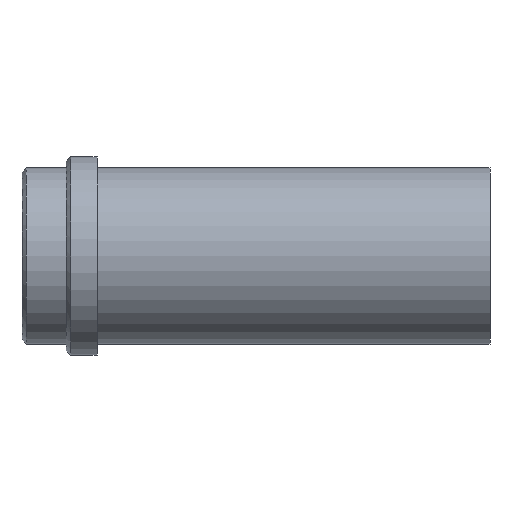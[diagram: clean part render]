
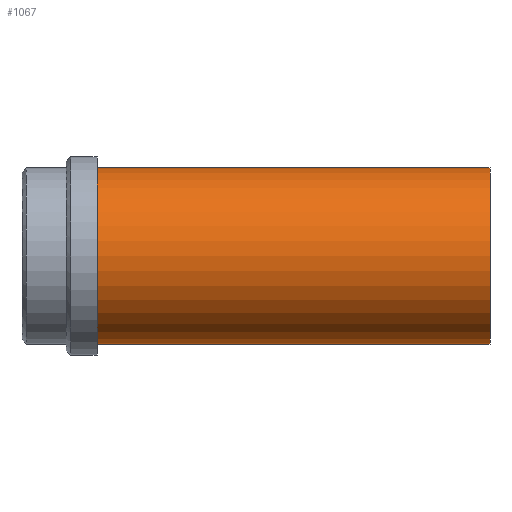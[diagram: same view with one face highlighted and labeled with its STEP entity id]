
A CAD part, front view. The second image highlights one B-rep face of the part: STEP entity #1067.
In plain terms, the highlighted cylindrical face has radius 20 mm (diameter 40 mm), a partial arc.
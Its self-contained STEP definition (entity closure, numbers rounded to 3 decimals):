
#953=CARTESIAN_POINT('Vertex',(0.,0.,-20.)) ;
#958=CARTESIAN_POINT('Axis2P3D Location',(0.,0.,0.)) ;
#962=CARTESIAN_POINT('Vertex',(0.,-20.,0.)) ;
#965=CARTESIAN_POINT('Axis2P3D Location',(0.,0.,0.)) ;
#969=CARTESIAN_POINT('Vertex',(0.,0.,20.)) ;
#995=CARTESIAN_POINT('Vertex',(89.,0.,20.)) ;
#998=CARTESIAN_POINT('Axis2P3D Location',(89.,0.,0.)) ;
#1002=CARTESIAN_POINT('Vertex',(89.,-20.,0.)) ;
#1005=CARTESIAN_POINT('Axis2P3D Location',(89.,0.,0.)) ;
#1009=CARTESIAN_POINT('Vertex',(89.,0.,-20.)) ;
#1035=CARTESIAN_POINT('Line Origine',(89.,0.,20.)) ;
#1040=CARTESIAN_POINT('Line Origine',(89.,0.,-20.)) ;
#1054=CARTESIAN_POINT('Axis2P3D Location',(89.,0.,0.)) ;
#959=DIRECTION('Axis2P3D Direction',(1.,0.,-0.)) ;
#966=DIRECTION('Axis2P3D Direction',(1.,0.,-0.)) ;
#999=DIRECTION('Axis2P3D Direction',(1.,0.,-0.)) ;
#1006=DIRECTION('Axis2P3D Direction',(1.,0.,-0.)) ;
#1036=DIRECTION('Vector Direction',(-1.,0.,0.)) ;
#1041=DIRECTION('Vector Direction',(-1.,0.,0.)) ;
#1055=DIRECTION('Axis2P3D Direction',(-1.,-0.,-0.)) ;
#1056=DIRECTION('Axis2P3D XDirection',(0.,0.,-1.)) ;
#960=AXIS2_PLACEMENT_3D('Circle Axis2P3D',#958,#959,$) ;
#967=AXIS2_PLACEMENT_3D('Circle Axis2P3D',#965,#966,$) ;
#1000=AXIS2_PLACEMENT_3D('Circle Axis2P3D',#998,#999,$) ;
#1007=AXIS2_PLACEMENT_3D('Circle Axis2P3D',#1005,#1006,$) ;
#1057=AXIS2_PLACEMENT_3D('Cylinder Axis2P3D',#1054,#1055,#1056) ;
#1060=ORIENTED_EDGE('',*,*,#1044,.T.) ;
#1061=ORIENTED_EDGE('',*,*,#1011,.F.) ;
#1062=ORIENTED_EDGE('',*,*,#1004,.F.) ;
#1063=ORIENTED_EDGE('',*,*,#1039,.T.) ;
#1064=ORIENTED_EDGE('',*,*,#971,.T.) ;
#1065=ORIENTED_EDGE('',*,*,#964,.T.) ;
#1037=VECTOR('Line Direction',#1036,1.) ;
#1042=VECTOR('Line Direction',#1041,1.) ;
#1067=ADVANCED_FACE('358-32X106',(#1066),#1058,.T.) ;
#961=CIRCLE('generated circle',#960,20.) ;
#968=CIRCLE('generated circle',#967,20.) ;
#1001=CIRCLE('generated circle',#1000,20.) ;
#1008=CIRCLE('generated circle',#1007,20.) ;
#1058=CYLINDRICAL_SURFACE('generated cylinder',#1057,20.) ;
#964=EDGE_CURVE('',#963,#954,#961,.T.) ;
#971=EDGE_CURVE('',#970,#963,#968,.T.) ;
#1004=EDGE_CURVE('',#996,#1003,#1001,.T.) ;
#1011=EDGE_CURVE('',#1003,#1010,#1008,.T.) ;
#1039=EDGE_CURVE('',#996,#970,#1038,.T.) ;
#1044=EDGE_CURVE('',#954,#1010,#1043,.F.) ;
#1059=EDGE_LOOP('',(#1060,#1061,#1062,#1063,#1064,#1065)) ;
#1066=FACE_OUTER_BOUND('',#1059,.T.) ;
#1038=LINE('Line',#1035,#1037) ;
#1043=LINE('Line',#1040,#1042) ;
#954=VERTEX_POINT('',#953) ;
#963=VERTEX_POINT('',#962) ;
#970=VERTEX_POINT('',#969) ;
#996=VERTEX_POINT('',#995) ;
#1003=VERTEX_POINT('',#1002) ;
#1010=VERTEX_POINT('',#1009) ;
